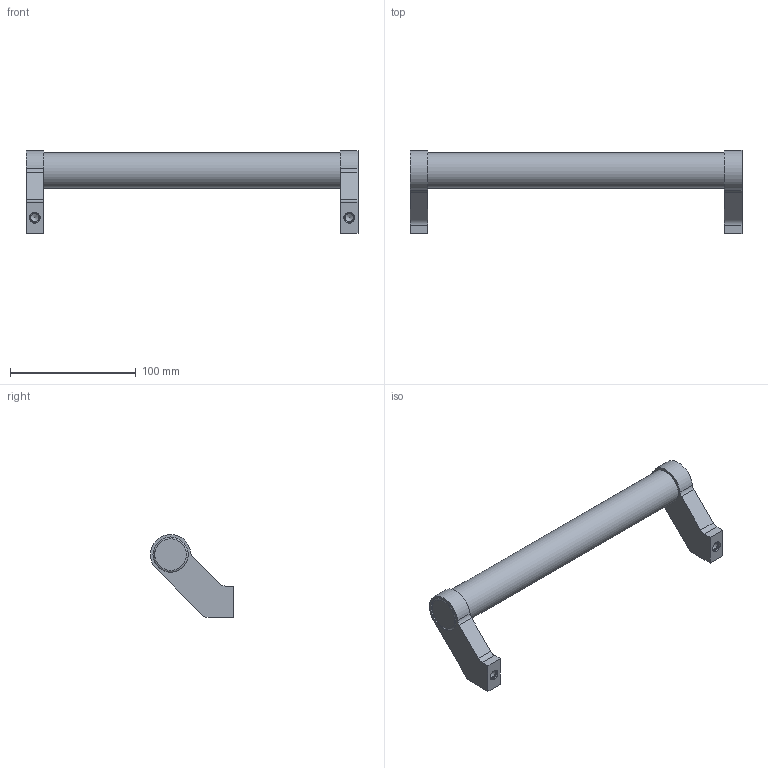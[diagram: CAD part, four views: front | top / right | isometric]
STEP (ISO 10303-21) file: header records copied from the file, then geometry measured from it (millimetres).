
FILE_DESCRIPTION( ( 'STEP AP203' ), '1' );
FILE_NAME( 'C:/Temp/Ganter_Step_05_03_2020/data/1_2/gn333/Tubular handle GN 333-28-250-A-SW.stp', '2020-03-05T10:16:13', ( 'License CC BY-ND 4.0' ), ( 'CADENAS' ), ' ', 'PARTsolutions', ' ' );
FILE_SCHEMA( ( 'CONFIG_CONTROL_DESIGN' ) );
Length unit declared in the file: millimetre
Products named in the file (1): _Tubular handle GN 333-28-250-A-SW
Bounding box: 264 x 65.95 x 65.97 mm (x, y, z)
Volume: 205859 mm3; surface area: 35458 mm2
Topology: 1 solids, 1 shells, 47 faces, 110 edges, 71 vertices
Faces by surface type: plane 26, cylinder 15, cone 4, torus 2
Full cylindrical faces by diameter (mm): 6.647 x2, 8.5 x2, 28 x3
Entity records: 1348 total; most frequent: CARTESIAN_POINT 278, DIRECTION 218, ORIENTED_EDGE 188, EDGE_CURVE 94, AXIS2_PLACEMENT_3D 84, VERTEX_POINT 68, EDGE_LOOP 64, FACE_OUTER_BOUND 54
